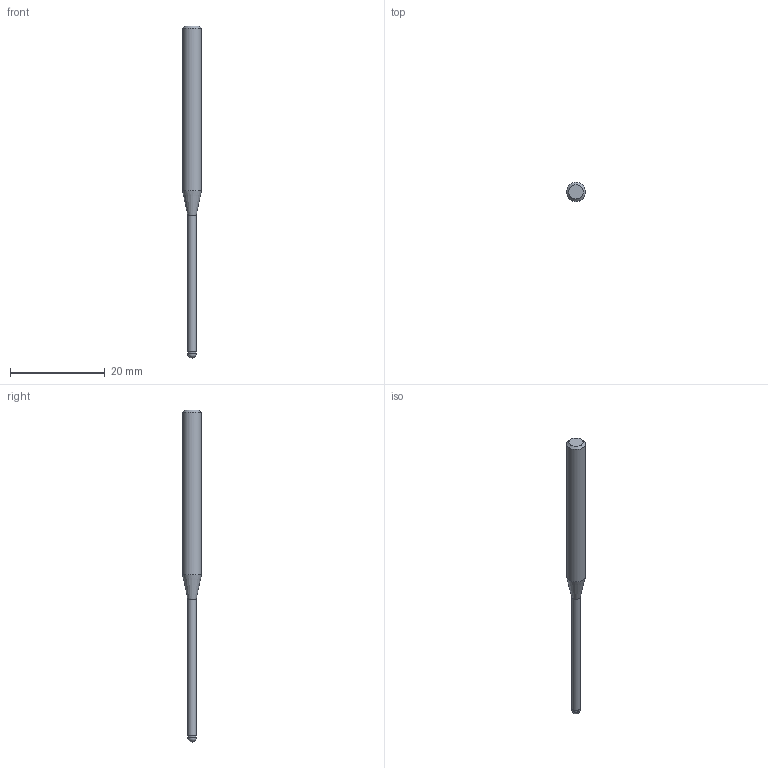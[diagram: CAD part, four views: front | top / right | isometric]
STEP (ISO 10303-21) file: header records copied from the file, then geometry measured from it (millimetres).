
FILE_DESCRIPTION((''),'2;1');
FILE_NAME('C:\Users\nsx150\AppData\Local\Temp\Mastercam 2021\ARV7HD45SN\TEMP.step','2023-06-13T16:37:12',(''),(''),'STEP Write','Mastercam 2021 ... CNC Software, Inc.','');
FILE_SCHEMA(('AUTOMOTIVE_DESIGN'));
Length unit declared in the file: millimetre
Products named in the file (1): None
Bounding box: 4 x 4 x 70 mm (x, y, z)
Volume: 541.4 mm3; surface area: 662.6 mm2
Topology: 2 solids, 2 shells, 9 faces, 14 edges, 8 vertices
Faces by surface type: plane 3, cylinder 3, cone 2, sphere 1
Full cylindrical faces by diameter (mm): 1.74 x1, 1.8 x1, 4 x1
Entity records: 211 total; most frequent: DIRECTION 36, CARTESIAN_POINT 25, AXIS2_PLACEMENT_3D 18, ORIENTED_EDGE 14, EDGE_LOOP 14, STYLED_ITEM 12, ADVANCED_FACE 9, FACE_BOUND 8
